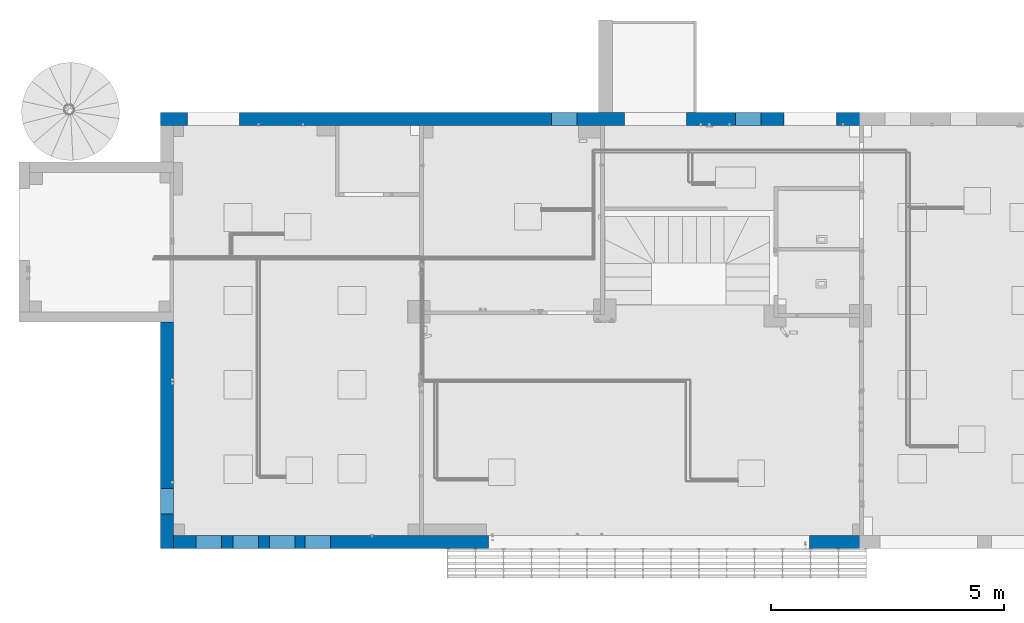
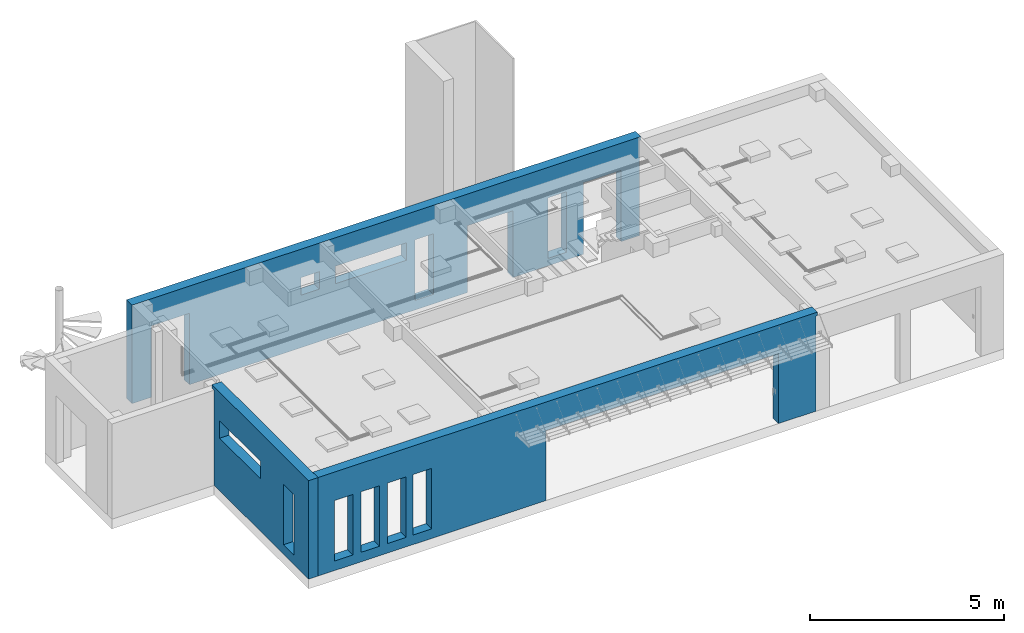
# One storey, part 4 of 24: 3 walls.
"""IFC2X3 building model written with IfcOpenShell, lengths in millimetres."""

from ifc_helpers import new_model, entity, si_unit, converted_unit, derived_unit, direction, frame, origin, place, context, subcontext, project, spatial, faceted_brep, material, type_object, element, save


model = new_model("IFC2X3")

# Units and contexts
model_context = context("Model", 3, precision=0.01, world=origin(), true_north=direction((6.123031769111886e-17, 1.0)))
body_context = subcontext(model_context, "Body", "Model", "MODEL_VIEW")
ifc_project = project(units=[si_unit("LENGTHUNIT", "METRE", prefix="MILLI"), si_unit("AREAUNIT", "SQUARE_METRE"), si_unit("VOLUMEUNIT", "CUBIC_METRE"), converted_unit("PLANEANGLEUNIT", "DEGREE", entity("IfcRatioMeasure", 0.017453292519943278), si_unit("PLANEANGLEUNIT", "RADIAN"), dimensions=[0, 0, 0, 0, 0, 0, 0]), si_unit("MASSUNIT", "GRAM", prefix="KILO"), derived_unit("MASSDENSITYUNIT", [(si_unit("MASSUNIT", "GRAM", prefix="KILO"), 1), (si_unit("LENGTHUNIT", "METRE"), -3)]), derived_unit("MOMENTOFINERTIAUNIT", [(si_unit("LENGTHUNIT", "METRE"), 4)]), si_unit("TIMEUNIT", "SECOND"), si_unit("FREQUENCYUNIT", "HERTZ"), si_unit("THERMODYNAMICTEMPERATUREUNIT", "DEGREE_CELSIUS"), derived_unit("THERMALTRANSMITTANCEUNIT", [(si_unit("MASSUNIT", "GRAM", prefix="KILO"), 1), (si_unit("THERMODYNAMICTEMPERATUREUNIT", "KELVIN"), -1), (si_unit("TIMEUNIT", "SECOND"), -3)]), derived_unit("VOLUMETRICFLOWRATEUNIT", [(si_unit("LENGTHUNIT", "METRE"), 3), (si_unit("TIMEUNIT", "SECOND"), -1)]), derived_unit("MASSFLOWRATEUNIT", [(si_unit("MASSUNIT", "GRAM", prefix="KILO"), 1), (si_unit("TIMEUNIT", "SECOND"), -1)]), derived_unit("ROTATIONALFREQUENCYUNIT", [(si_unit("TIMEUNIT", "SECOND"), -1)]), si_unit("ELECTRICCURRENTUNIT", "AMPERE"), si_unit("ELECTRICVOLTAGEUNIT", "VOLT"), si_unit("POWERUNIT", "WATT"), si_unit("FORCEUNIT", "NEWTON", prefix="KILO"), si_unit("ILLUMINANCEUNIT", "LUX"), si_unit("LUMINOUSFLUXUNIT", "LUMEN"), si_unit("LUMINOUSINTENSITYUNIT", "CANDELA"), derived_unit("USERDEFINED", [(si_unit("MASSUNIT", "GRAM", prefix="KILO"), -1), (si_unit("LENGTHUNIT", "METRE"), -2), (si_unit("TIMEUNIT", "SECOND"), 3), (si_unit("LUMINOUSFLUXUNIT", "LUMEN"), 1)]), derived_unit("SOUNDPOWERUNIT", [(si_unit("MASSUNIT", "GRAM", prefix="KILO"), 1), (si_unit("LENGTHUNIT", "METRE"), 2), (si_unit("TIMEUNIT", "SECOND"), -3)]), derived_unit("SOUNDPRESSUREUNIT", [(si_unit("MASSUNIT", "GRAM", prefix="KILO"), 1), (si_unit("LENGTHUNIT", "METRE"), -1), (si_unit("TIMEUNIT", "SECOND"), -2)]), derived_unit("LINEARVELOCITYUNIT", [(si_unit("LENGTHUNIT", "METRE"), 1), (si_unit("TIMEUNIT", "SECOND"), -1)]), si_unit("PRESSUREUNIT", "PASCAL"), derived_unit("USERDEFINED", [(si_unit("LENGTHUNIT", "METRE"), -2), (si_unit("MASSUNIT", "GRAM", prefix="KILO"), 1), (si_unit("TIMEUNIT", "SECOND"), -2)]), derived_unit("LINEARFORCEUNIT", [(si_unit("MASSUNIT", "GRAM", prefix="KILO"), 1), (si_unit("LENGTHUNIT", "METRE"), 1), (si_unit("TIMEUNIT", "SECOND"), -2), (si_unit("LENGTHUNIT", "METRE"), -1)]), derived_unit("PLANARFORCEUNIT", [(si_unit("MASSUNIT", "GRAM", prefix="KILO"), 1), (si_unit("LENGTHUNIT", "METRE"), 1), (si_unit("TIMEUNIT", "SECOND"), -2), (si_unit("LENGTHUNIT", "METRE"), -2)])], contexts=[model_context])

# Site, building, storey
site_placement = place(None, origin())
site = spatial("IfcSite", under=ifc_project, at=site_placement, Name="Default", CompositionType="ELEMENT")
building_placement = place(site_placement, origin())
building = spatial("IfcBuilding", under=site, at=building_placement, CompositionType="ELEMENT")
storey_placement = place(building_placement, origin())
storey = spatial("IfcBuildingStorey", under=building, at=storey_placement, Name="Level 1", CompositionType="ELEMENT", Elevation=0.0)

# Walls
ifc_material = material(Name="Finishing Coating")
wall_type_1 = type_object("IfcWallType", Name="Basic Wall:My exterior wall 280mm", PredefinedType="NOTDEFINED", material=ifc_material)
wall_1_placement = place(storey_placement, frame((-9425.33652342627, 5011.161513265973, 0.0)))
element("IfcWall", 1, at=wall_1_placement, inside=storey, type_object=wall_type_1, material=ifc_material, Name="Basic Wall:My exterior wall 280mm:My exterior wall 280mm : Basic Wall:My exterior wall 280mm", ObjectType="Basic Wall:My exterior wall 280mm:My exterior wall 280mm : Basic Wall:My exterior wall 280mm", context=body_context, shape_type="Brep", body=[
    faceted_brep([(15031.054316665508, 280.0, 3095.0), (15113.054316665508, 280.0, 3095.0), (15113.054316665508, 280.0, 2985.0), (15072.054316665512, 280.0, 2985.0), (15072.054316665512, 280.0, 0.0), (15031.054316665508, 280.0, 0.0), (14530.823807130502, 280.0, 0.0), (14530.823807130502, 280.0, 2241.6), (13409.2238071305, 280.0, 2241.6), (13409.2238071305, 280.0, 0.0), (11310.930664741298, 280.0, 0.0), (11310.930664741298, 280.0, 2100.0), (9970.92709887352, 280.0, 2100.0), (9970.92709887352, 280.0, 0.0), (9543.873975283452, 280.0, 0.0), (9461.87397528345, 280.0, 0.0), (8990.480744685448, 280.0, 0.0), (5859.980744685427, 280.0, 0.0), (5649.980744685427, 280.0, 0.0), (5567.980744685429, 280.0, 0.0), (3841.8860219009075, 280.0, 0.0), (3759.886021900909, 280.0, 0.0), (3362.3860219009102, 280.0, 0.0), (1701.6000000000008, 280.0, 0.0), (1701.6000000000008, 280.0, 2241.6), (580.0, 280.0, 2241.6), (580.0, 280.0, 0.0), (489.8860219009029, 280.0, 0.0), (280.0, 280.0, 0.0), (0.0, 280.0, 0.0), (0.0, 280.0, 3095.0), (280.0, 280.0, 3095.0), (489.8860219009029, 280.0, 3095.0), (3362.3860219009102, 280.0, 3095.0), (3759.886021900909, 280.0, 3095.0), (3841.886021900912, 280.0, 3095.0), (5567.980744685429, 280.0, 3095.0), (5649.980744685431, 280.0, 3095.0), (5859.980744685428, 280.0, 3095.0), (8990.480744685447, 280.0, 3095.0), (9461.87397528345, 280.0, 3095.0), (9543.873975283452, 280.0, 3095.0), (8950.835582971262, 280.0, 2200.0), (8400.83558297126, 280.0, 2200.0), (8400.83558297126, 280.0, 300.0), (8950.835582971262, 280.0, 300.0), (12908.993297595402, 280.0, 2137.837437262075), (12358.993297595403, 280.0, 2137.837437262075), (12358.993297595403, 280.0, 237.837437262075), (12908.993297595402, 280.0, 237.837437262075), (5568.50186708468, 280.0, 2200.0), (5018.501867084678, 280.0, 2200.0), (5018.501867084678, 280.0, 1650.0), (5568.50186708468, 280.0, 1650.0), (8150.835582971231, 280.0, 2200.0), (6050.835582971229, 280.0, 2200.0), (6050.835582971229, 280.0, 1650.0), (8150.835582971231, 280.0, 1650.0), (15031.054316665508, 0.0, 3095.0), (9543.873975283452, 0.0, 3095.0), (9461.87397528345, 0.0, 3095.0), (8990.480744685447, 0.0, 3095.0), (5859.980744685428, 0.0, 3095.0), (5649.980744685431, 0.0, 3095.0), (5567.980744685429, 0.0, 3095.0), (3841.886021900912, 0.0, 3095.0), (3759.886021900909, 0.0, 3095.0), (3362.3860219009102, 0.0, 3095.0), (489.8860219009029, 0.0, 3095.0), (280.0, 0.0, 3095.0), (0.0, 0.0, 3095.0), (0.0, 0.0, 0.0), (280.0, 0.0, 0.0), (489.8860219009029, 0.0, 0.0), (580.0, 0.0, 0.0), (580.0, 0.0, 2241.6), (1701.6000000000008, 0.0, 2241.6), (1701.6000000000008, 0.0, 0.0), (3362.3860219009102, 0.0, 0.0), (3759.886021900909, 0.0, 0.0), (3841.8860219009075, 0.0, 0.0), (5567.980744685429, 0.0, 0.0), (5649.980744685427, 0.0, 0.0), (5859.980744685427, 0.0, 0.0), (8990.480744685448, 0.0, 0.0), (9461.87397528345, 0.0, 0.0), (9543.873975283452, 0.0, 0.0), (9970.92709887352, 0.0, 0.0), (9970.92709887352, 0.0, 2100.0), (11310.930664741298, 0.0, 2100.0), (11310.930664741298, 0.0, 0.0), (13409.2238071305, 0.0, 0.0), (13409.2238071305, 0.0, 2241.6), (14530.823807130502, 0.0, 2241.6), (14530.823807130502, 0.0, 0.0), (15031.054316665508, 0.0, 0.0), (15072.054316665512, 0.0, 0.0), (15072.054316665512, 0.0, 2985.0), (15113.054316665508, 0.0, 2985.0), (15113.054316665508, 0.0, 3095.0), (8950.835582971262, 0.0, 2200.0), (8950.835582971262, 0.0, 300.0), (8400.83558297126, 0.0, 300.0), (8400.83558297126, 0.0, 2200.0), (12908.993297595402, 0.0, 2137.837437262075), (12908.993297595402, 0.0, 237.837437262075), (12358.993297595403, 0.0, 237.837437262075), (12358.993297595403, 0.0, 2137.837437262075), (5568.50186708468, 0.0, 2200.0), (5568.50186708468, 0.0, 1650.0), (5018.501867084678, 0.0, 1650.0), (5018.501867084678, 0.0, 2200.0), (8150.835582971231, 0.0, 2200.0), (8150.835582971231, 0.0, 1650.0), (6050.835582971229, 0.0, 1650.0), (6050.835582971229, 0.0, 2200.0)], [[[0, 1, 2, 3, 4, 5, 6, 7, 8, 9, 10, 11, 12, 13, 14, 15, 16, 17, 18, 19, 20, 21, 22, 23, 24, 25, 26, 27, 28, 29, 30, 31, 32, 33, 34, 35, 36, 37, 38, 39, 40, 41], [42, 43, 44, 45], [46, 47, 48, 49], [50, 51, 52, 53], [54, 55, 56, 57]], [[58, 59, 60, 61, 62, 63, 64, 65, 66, 67, 68, 69, 70, 71, 72, 73, 74, 75, 76, 77, 78, 79, 80, 81, 82, 83, 84, 85, 86, 87, 88, 89, 90, 91, 92, 93, 94, 95, 96, 97, 98, 99], [100, 101, 102, 103], [104, 105, 106, 107], [108, 109, 110, 111], [112, 113, 114, 115]], [[1, 0, 58, 99]], [[2, 1, 99, 98]], [[3, 2, 98, 97]], [[4, 3, 97, 96]], [[5, 4, 96, 95]], [[6, 5, 95, 94]], [[7, 6, 94, 93]], [[8, 7, 93, 92]], [[9, 8, 92, 91]], [[10, 9, 91, 90]], [[11, 10, 90, 89]], [[12, 11, 89, 88]], [[13, 12, 88, 87]], [[14, 13, 87, 86]], [[15, 14, 86, 85]], [[16, 15, 85, 84]], [[17, 16, 84, 83]], [[18, 17, 83, 82]], [[19, 18, 82, 81]], [[20, 19, 81, 80]], [[21, 20, 80, 79]], [[22, 21, 79, 78]], [[23, 22, 78, 77]], [[24, 23, 77, 76]], [[25, 24, 76, 75]], [[26, 25, 75, 74]], [[27, 26, 74, 73]], [[28, 27, 73, 72]], [[29, 28, 72, 71]], [[30, 29, 71, 70]], [[31, 30, 70, 69]], [[32, 31, 69, 68]], [[33, 32, 68, 67]], [[34, 33, 67, 66]], [[35, 34, 66, 65]], [[36, 35, 65, 64]], [[37, 36, 64, 63]], [[38, 37, 63, 62]], [[39, 38, 62, 61]], [[40, 39, 61, 60]], [[41, 40, 60, 59]], [[0, 41, 59, 58]], [[43, 42, 100, 103]], [[44, 43, 103, 102]], [[45, 44, 102, 101]], [[42, 45, 101, 100]], [[47, 46, 104, 107]], [[48, 47, 107, 106]], [[49, 48, 106, 105]], [[46, 49, 105, 104]], [[51, 50, 108, 111]], [[52, 51, 111, 110]], [[53, 52, 110, 109]], [[50, 53, 109, 108]], [[55, 54, 112, 115]], [[56, 55, 115, 114]], [[57, 56, 114, 113]], [[54, 57, 113, 112]]]),
])
wall_type_2 = type_object("IfcWallType", Name="Basic Wall:My exterior wall 280mm", PredefinedType="NOTDEFINED", material=ifc_material)
wall_2_placement = place(storey_placement, frame((-9425.33652342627, -4075.8384867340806, 0.0), z_axis=(0.0, 0.0, 1.0), x_axis=(0.0, 1.0, 0.0)))
element("IfcWall", 2, at=wall_2_placement, inside=storey, type_object=wall_type_2, material=ifc_material, Name="Basic Wall:My exterior wall 280mm:My exterior wall 280mm : Basic Wall:My exterior wall 280mm", ObjectType="Basic Wall:My exterior wall 280mm:My exterior wall 280mm : Basic Wall:My exterior wall 280mm", context=body_context, shape_type="Brep", body=[
    faceted_brep([(0.0, -280.0, 0.0), (4861.0, -280.0, 0.0), (4861.0, -280.0, 2985.0), (4971.0, -280.0, 2985.0), (4971.0, -280.0, 3095.0), (0.0, -280.0, 3095.0), (740.0, -280.0, 2200.0), (1290.0, -280.0, 2200.0), (1290.0, -280.0, 300.0), (740.0, -280.0, 300.0), (2480.104499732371, -280.0, 2200.0), (4580.104499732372, -280.0, 2200.0), (4580.104499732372, -280.0, 1650.0), (2480.104499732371, -280.0, 1650.0), (0.0, 0.0, 0.0), (0.0, 0.0, 3095.0), (4971.0, 0.0, 3095.0), (4971.0, 0.0, 2985.0), (4861.0, 0.0, 2985.0), (4861.0, 0.0, 0.0), (740.0, 0.0, 2200.0), (740.0, 0.0, 300.0), (1290.0, 0.0, 300.0), (1290.0, 0.0, 2200.0), (2480.104499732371, 0.0, 2200.0), (2480.104499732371, 0.0, 1650.0), (4580.104499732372, 0.0, 1650.0), (4580.104499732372, 0.0, 2200.0)], [[[0, 1, 2, 3, 4, 5], [6, 7, 8, 9], [10, 11, 12, 13]], [[14, 15, 16, 17, 18, 19], [20, 21, 22, 23], [24, 25, 26, 27]], [[1, 0, 14, 19]], [[2, 1, 19, 18]], [[3, 2, 18, 17]], [[4, 3, 17, 16]], [[5, 4, 16, 15]], [[0, 5, 15, 14]], [[7, 6, 20, 23]], [[8, 7, 23, 22]], [[9, 8, 22, 21]], [[6, 9, 21, 20]], [[11, 10, 24, 27]], [[12, 11, 27, 26]], [[13, 12, 26, 25]], [[10, 13, 25, 24]]]),
])
wall_type_3 = type_object("IfcWallType", Name="Basic Wall:My exterior wall 280mm", PredefinedType="NOTDEFINED", material=ifc_material)
wall_3_placement = place(storey_placement, frame((-9145.336523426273, -4075.83848673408, 0.0)))
element("IfcWall", 3, at=wall_3_placement, inside=storey, type_object=wall_type_3, material=ifc_material, Name="Basic Wall:My exterior wall 280mm:My exterior wall 280mm : Basic Wall:My exterior wall 280mm", ObjectType="Basic Wall:My exterior wall 280mm:My exterior wall 280mm : Basic Wall:My exterior wall 280mm", context=body_context, shape_type="Brep", body=[
    faceted_brep([(0.0, 280.0, 3095.0), (14833.054316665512, 280.0, 3095.0), (14833.054316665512, 280.0, 2985.0), (14792.05431666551, 280.0, 2985.0), (14792.05431666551, 280.0, 0.0), (13669.980744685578, 280.0, 0.0), (13669.980744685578, 280.0, 2200.0), (6769.980744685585, 280.0, 2200.0), (6769.980744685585, 280.0, 0.0), (0.0, 280.0, 0.0), (2612.227903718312, 280.0, 2200.0), (2062.2279037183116, 280.0, 2200.0), (2062.2279037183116, 280.0, 300.0), (2612.227903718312, 280.0, 300.0), (3372.2279037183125, 280.0, 2200.0), (2822.227903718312, 280.0, 2200.0), (2822.227903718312, 280.0, 300.0), (3372.2279037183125, 280.0, 300.0), (1822.2279037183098, 280.0, 2200.0), (1272.227903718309, 280.0, 2200.0), (1272.227903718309, 280.0, 300.0), (1822.2279037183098, 280.0, 300.0), (1032.2279037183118, 280.0, 2200.0), (482.2279037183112, 280.0, 2200.0), (482.2279037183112, 280.0, 300.0), (1032.2279037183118, 280.0, 300.0), (0.0, 0.0, 3095.0), (0.0, 0.0, 0.0), (6769.980744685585, 0.0, 0.0), (6769.980744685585, 0.0, 2200.0), (13669.980744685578, 0.0, 2200.0), (13669.980744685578, 0.0, 0.0), (14792.05431666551, 0.0, 0.0), (14792.05431666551, 0.0, 2985.0), (14833.054316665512, 0.0, 2985.0), (14833.054316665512, 0.0, 3095.0), (2612.227903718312, 0.0, 2200.0), (2612.227903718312, 0.0, 300.0), (2062.2279037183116, 0.0, 300.0), (2062.2279037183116, 0.0, 2200.0), (3372.2279037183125, 0.0, 2200.0), (3372.2279037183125, 0.0, 300.0), (2822.227903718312, 0.0, 300.0), (2822.227903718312, 0.0, 2200.0), (1822.2279037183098, 0.0, 2200.0), (1822.2279037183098, 0.0, 300.0), (1272.227903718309, 0.0, 300.0), (1272.227903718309, 0.0, 2200.0), (1032.2279037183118, 0.0, 2200.0), (1032.2279037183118, 0.0, 300.0), (482.2279037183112, 0.0, 300.0), (482.2279037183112, 0.0, 2200.0)], [[[0, 1, 2, 3, 4, 5, 6, 7, 8, 9], [10, 11, 12, 13], [14, 15, 16, 17], [18, 19, 20, 21], [22, 23, 24, 25]], [[26, 27, 28, 29, 30, 31, 32, 33, 34, 35], [36, 37, 38, 39], [40, 41, 42, 43], [44, 45, 46, 47], [48, 49, 50, 51]], [[1, 0, 26, 35]], [[2, 1, 35, 34]], [[3, 2, 34, 33]], [[4, 3, 33, 32]], [[5, 4, 32, 31]], [[6, 5, 31, 30]], [[7, 6, 30, 29]], [[8, 7, 29, 28]], [[9, 8, 28, 27]], [[0, 9, 27, 26]], [[11, 10, 36, 39]], [[12, 11, 39, 38]], [[13, 12, 38, 37]], [[10, 13, 37, 36]], [[15, 14, 40, 43]], [[16, 15, 43, 42]], [[17, 16, 42, 41]], [[14, 17, 41, 40]], [[19, 18, 44, 47]], [[20, 19, 47, 46]], [[21, 20, 46, 45]], [[18, 21, 45, 44]], [[23, 22, 48, 51]], [[24, 23, 51, 50]], [[25, 24, 50, 49]], [[22, 25, 49, 48]]]),
])

save(model, "model.ifc")
